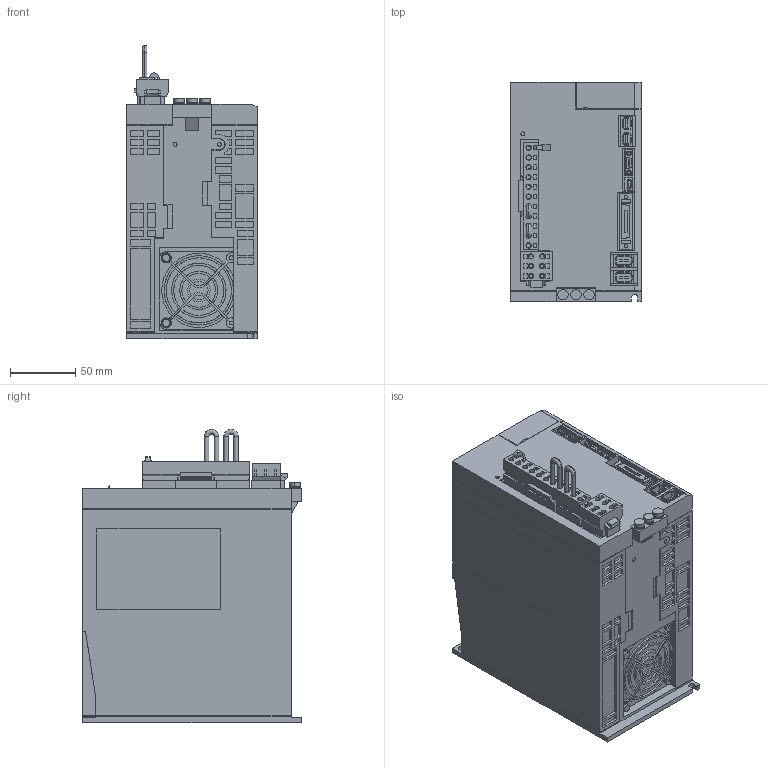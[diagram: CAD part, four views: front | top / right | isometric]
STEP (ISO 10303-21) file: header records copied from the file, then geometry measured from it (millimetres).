
FILE_DESCRIPTION (( 'STEP AP203' ), '1' );
FILE_NAME ('sgd7w_7r6a20a.STEP', '2014-03-06T04:32:26', ( '匠エンジニアリング山之内' ), ( 'TAKUMI-Engniaring' ), 'SwSTEP 2.0', 'SolidWorks 2006303', '' );
FILE_SCHEMA (( 'CONFIG_CONTROL_DESIGN' ));
Products named in the file (8): sgd7w_7r6a20a; sgd7w_7r6a20a_base; sgd7w_7r6a20a_connector_2; sgd7w_7r6a20a_connector; sgd7w_7r6a20a_pin; sgd7w_7r6a20a_cable; sgd7w_7r6a20a_connector_1; sgd7w_7r6a20a_cover
Assembly tree (8 placements, depth 3):
  sgd7w_7r6a20a
    sgd7w_7r6a20a_base
    sgd7w_7r6a20a_connector
      sgd7w_7r6a20a_cable  x2
      sgd7w_7r6a20a_connector_2
      sgd7w_7r6a20a_pin
    sgd7w_7r6a20a_connector_1
    sgd7w_7r6a20a_cover
Bounding box: 100 x 168 x 225 mm (x, y, z)
Volume: 2835217.3 mm3; surface area: 179233.8 mm2
Topology: 7 solids, 7 shells, 1939 faces, 5104 edges, 3360 vertices
Faces by surface type: plane 1721, cylinder 209, cone 4, torus 4, sphere 1
Entity records: 59470 total; most frequent: CARTESIAN_POINT 10359, ORIENTED_EDGE 10156, DIRECTION 9432, EDGE_CURVE 5078, LINE 4598, VECTOR 4598, VERTEX_POINT 3344, AXIS2_PLACEMENT_3D 2417
